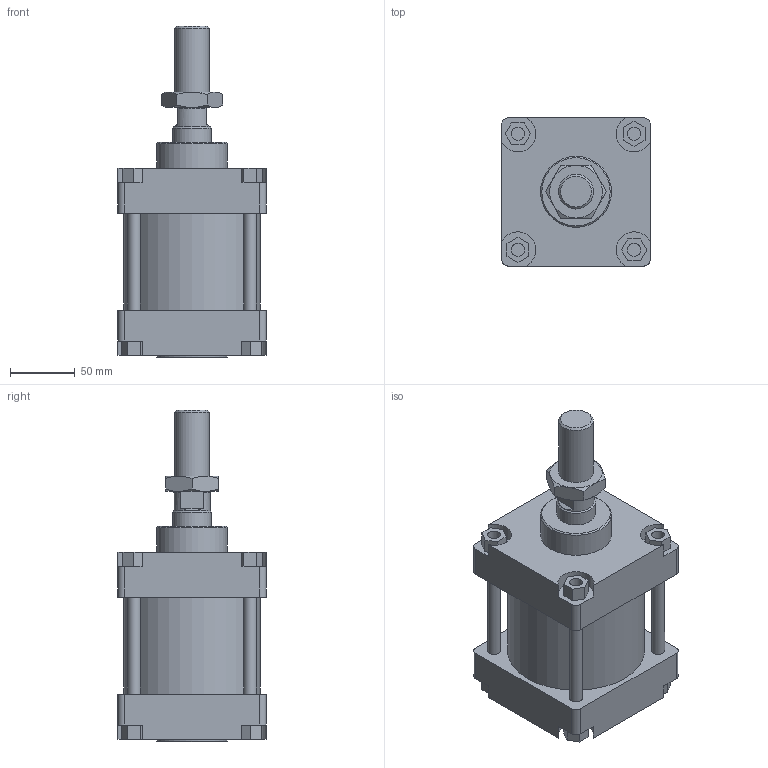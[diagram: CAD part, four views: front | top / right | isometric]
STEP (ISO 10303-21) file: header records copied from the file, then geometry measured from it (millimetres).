
FILE_DESCRIPTION(/* description */ (''),/* implementation_level */ '2;1');
FILE_NAME(/* name */ 'I:\Area Tecnica\Disegni\VARIE-3D\Componenti\CSP\Ø100\130#_100_####_###\1303_100_0000_01A.stp',/* time_stamp */ '2016-11-24T14:03:35+01:00',/* author */ ('Maniean1'),/* organization */ ('Pneumax S.p.A.'),/* preprocessor_version */ 'ST-DEVELOPER v15.2',/* originating_system */ 'Autodesk Inventor 2014',/* authorisation */ '');
FILE_SCHEMA (('AUTOMOTIVE_DESIGN { 1 0 10303 214 3 1 1 }'));
Length unit declared in the file: millimetre
Products named in the file (6): C_130#_100_0000; Testata anteriore_100; Testata posteriore_100; S_1303_100_0000_01A; 1300_100_18F; 1303_100_0000_01A
Bounding box: 115 x 115 x 257 mm (x, y, z)
Volume: 1634861.1 mm3; surface area: 228904.9 mm2
Topology: 9 solids, 9 shells, 162 faces, 380 edges, 249 vertices
Faces by surface type: plane 105, cylinder 42, cone 15
Full cylindrical faces by diameter (mm): 10 x12, 19 x2, 21.8 x1, 24.835 x1, 27 x1, 28 x1, 30 x3, 55 x2, 100 x2, 106 x1
Entity records: 4530 total; most frequent: CARTESIAN_POINT 785, DIRECTION 764, ORIENTED_EDGE 672, EDGE_CURVE 336, AXIS2_PLACEMENT_3D 271, VERTEX_POINT 244, EDGE_LOOP 236, LINE 222
